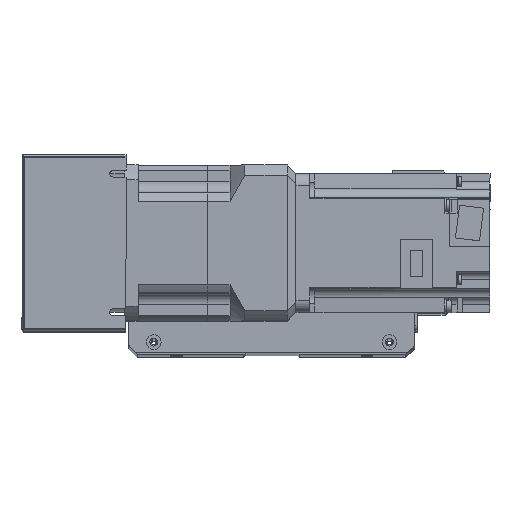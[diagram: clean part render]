
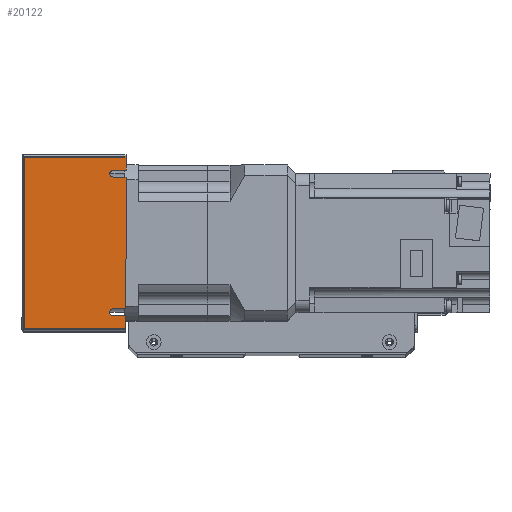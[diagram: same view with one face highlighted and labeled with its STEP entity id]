
A CAD part, top view. The second image highlights one B-rep face of the part: STEP entity #20122.
In plain terms, the highlighted planar face has unit normal (0, 0, 1) as drawn and (-1, 0, 0) by its records, which use the part's own axes.
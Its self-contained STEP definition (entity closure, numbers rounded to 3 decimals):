
#587=PLANE('',#21924);
#1675=LINE('',#32287,#3335);
#1681=LINE('',#32301,#3341);
#1693=LINE('',#32328,#3353);
#1703=LINE('',#32350,#3363);
#1711=LINE('',#32370,#3371);
#1712=LINE('',#32372,#3372);
#1713=LINE('',#32374,#3373);
#1714=LINE('',#32376,#3374);
#1715=LINE('',#32377,#3375);
#1716=LINE('',#32379,#3376);
#3335=VECTOR('',#26132,10.);
#3341=VECTOR('',#26142,10.);
#3353=VECTOR('',#26160,10.);
#3363=VECTOR('',#26174,10.);
#3371=VECTOR('',#26196,10.);
#3372=VECTOR('',#26197,10.);
#3373=VECTOR('',#26198,10.);
#3374=VECTOR('',#26199,10.);
#3375=VECTOR('',#26200,10.);
#3376=VECTOR('',#26203,10.);
#5377=FACE_OUTER_BOUND('',#6825,.T.);
#6825=EDGE_LOOP('',(#16202,#16203,#16204,#16205,#16206,#16207,#16208,#16209,
#16210,#16211,#16212,#16213));
#8265=CIRCLE('',#21919,2.);
#8269=CIRCLE('',#21925,2.);
#9706=VERTEX_POINT('',#32284);
#9707=VERTEX_POINT('',#32286);
#9712=VERTEX_POINT('',#32299);
#9713=VERTEX_POINT('',#32300);
#9724=VERTEX_POINT('',#32326);
#9725=VERTEX_POINT('',#32327);
#9734=VERTEX_POINT('',#32347);
#9735=VERTEX_POINT('',#32349);
#9740=VERTEX_POINT('',#32369);
#9741=VERTEX_POINT('',#32371);
#9742=VERTEX_POINT('',#32373);
#9743=VERTEX_POINT('',#32375);
#12061=EDGE_CURVE('',#9707,#9706,#1675,.T.);
#12067=EDGE_CURVE('',#9712,#9713,#1681,.T.);
#12079=EDGE_CURVE('',#9724,#9725,#1693,.T.);
#12089=EDGE_CURVE('',#9735,#9734,#1703,.T.);
#12091=EDGE_CURVE('',#9713,#9707,#8265,.T.);
#12101=EDGE_CURVE('',#9740,#9706,#1711,.T.);
#12102=EDGE_CURVE('',#9741,#9740,#1712,.T.);
#12103=EDGE_CURVE('',#9742,#9741,#1713,.T.);
#12104=EDGE_CURVE('',#9743,#9742,#1714,.T.);
#12105=EDGE_CURVE('',#9724,#9743,#1715,.T.);
#12106=EDGE_CURVE('',#9725,#9735,#8269,.T.);
#12107=EDGE_CURVE('',#9712,#9734,#1716,.T.);
#16202=ORIENTED_EDGE('',*,*,#12061,.T.);
#16203=ORIENTED_EDGE('',*,*,#12101,.F.);
#16204=ORIENTED_EDGE('',*,*,#12102,.F.);
#16205=ORIENTED_EDGE('',*,*,#12103,.F.);
#16206=ORIENTED_EDGE('',*,*,#12104,.F.);
#16207=ORIENTED_EDGE('',*,*,#12105,.F.);
#16208=ORIENTED_EDGE('',*,*,#12079,.T.);
#16209=ORIENTED_EDGE('',*,*,#12106,.T.);
#16210=ORIENTED_EDGE('',*,*,#12089,.T.);
#16211=ORIENTED_EDGE('',*,*,#12107,.F.);
#16212=ORIENTED_EDGE('',*,*,#12067,.T.);
#16213=ORIENTED_EDGE('',*,*,#12091,.T.);
#20122=ADVANCED_FACE('',(#5377),#587,.T.);
#21919=AXIS2_PLACEMENT_3D('',#32353,#26178,#26179);
#21924=AXIS2_PLACEMENT_3D('',#32368,#26194,#26195);
#21925=AXIS2_PLACEMENT_3D('',#32378,#26201,#26202);
#26132=DIRECTION('',(0.,0.,1.));
#26142=DIRECTION('',(0.,0.,-1.));
#26160=DIRECTION('',(0.,0.,-1.));
#26174=DIRECTION('',(0.,0.,1.));
#26178=DIRECTION('center_axis',(1.,0.,0.));
#26179=DIRECTION('ref_axis',(0.,0.,-1.));
#26194=DIRECTION('center_axis',(-1.,0.,0.));
#26195=DIRECTION('ref_axis',(0.,-1.,0.));
#26196=DIRECTION('',(0.,-1.,0.));
#26197=DIRECTION('',(0.,0.,1.));
#26198=DIRECTION('',(0.,1.,0.));
#26199=DIRECTION('',(0.,0.,-1.));
#26200=DIRECTION('',(0.,-1.,0.));
#26201=DIRECTION('center_axis',(1.,0.,0.));
#26202=DIRECTION('ref_axis',(0.,0.,-1.));
#26203=DIRECTION('',(0.,-1.,0.));
#32284=CARTESIAN_POINT('',(-120.5,42.,30.));
#32286=CARTESIAN_POINT('',(-120.5,42.,22.5));
#32287=CARTESIAN_POINT('',(-120.5,42.,16.304));
#32299=CARTESIAN_POINT('',(-120.5,38.,30.));
#32300=CARTESIAN_POINT('',(-120.5,38.,22.5));
#32301=CARTESIAN_POINT('',(-120.5,38.,11.25));
#32326=CARTESIAN_POINT('',(-120.5,-42.,30.));
#32327=CARTESIAN_POINT('',(-120.5,-42.,22.5));
#32328=CARTESIAN_POINT('',(-120.5,-42.,11.25));
#32347=CARTESIAN_POINT('',(-120.5,-38.,30.));
#32349=CARTESIAN_POINT('',(-120.5,-38.,22.5));
#32350=CARTESIAN_POINT('',(-120.5,-38.,16.169));
#32353=CARTESIAN_POINT('Origin',(-120.5,40.,22.5));
#32368=CARTESIAN_POINT('Origin',(-120.5,51.,0.));
#32369=CARTESIAN_POINT('',(-120.5,50.,30.));
#32370=CARTESIAN_POINT('',(-120.5,-51.,30.));
#32371=CARTESIAN_POINT('',(-120.5,50.,-29.));
#32372=CARTESIAN_POINT('',(-120.5,50.,0.));
#32373=CARTESIAN_POINT('',(-120.5,-50.,-29.));
#32374=CARTESIAN_POINT('',(-120.5,25.5,-29.));
#32375=CARTESIAN_POINT('',(-120.5,-50.,30.));
#32376=CARTESIAN_POINT('',(-120.5,-50.,0.));
#32377=CARTESIAN_POINT('',(-120.5,-51.,30.));
#32378=CARTESIAN_POINT('Origin',(-120.5,-40.,22.5));
#32379=CARTESIAN_POINT('',(-120.5,-51.,30.));
